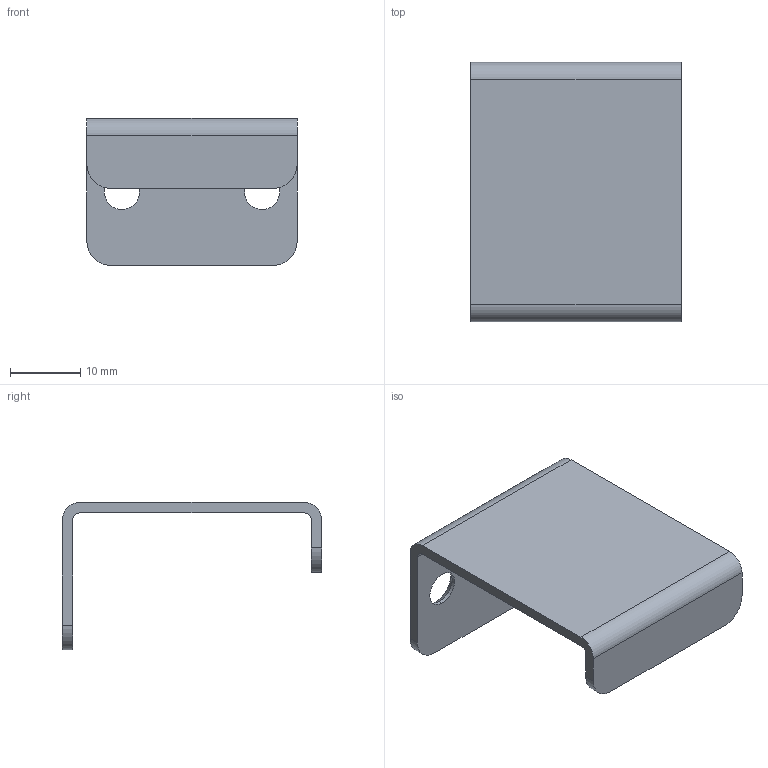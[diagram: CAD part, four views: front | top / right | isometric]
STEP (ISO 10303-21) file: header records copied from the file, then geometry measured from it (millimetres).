
FILE_DESCRIPTION( ( '' ), '1' );
FILE_NAME( 'D:/1.AUTOCAD EXPORT/Group 10/sheet_10_1/9995574.stp', '2013-10-17T08:16:31', ( '' ), ( '' ), ' ', ' ', ' ' );
FILE_SCHEMA( ( 'automotive_design' ) );
Length unit declared in the file: millimetre
Products named in the file (1): 1
Bounding box: 30 x 37 x 21 mm (x, y, z)
Volume: 2769.8 mm3; surface area: 4015.5 mm2
Topology: 1 solids, 1 shells, 26 faces, 68 edges, 44 vertices
Faces by surface type: cylinder 12, plane 10, cone 4
Entity records: 1608 total; most frequent: DIRECTION 150, STYLED_ITEM 139, PRESENTATION_STYLE_ASSIGNMENT 139, CARTESIAN_POINT 139, COLOUR_RGB 139, ORIENTED_EDGE 136, EDGE_CURVE 68, CURVE_STYLE 68
